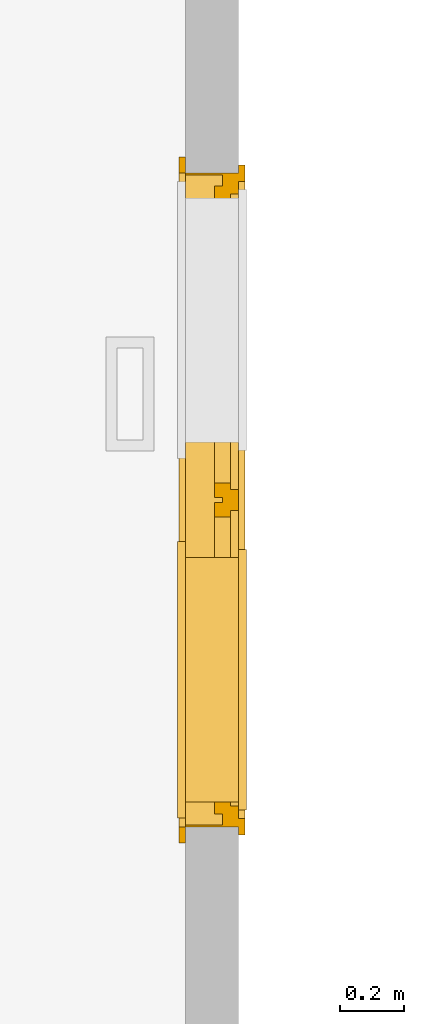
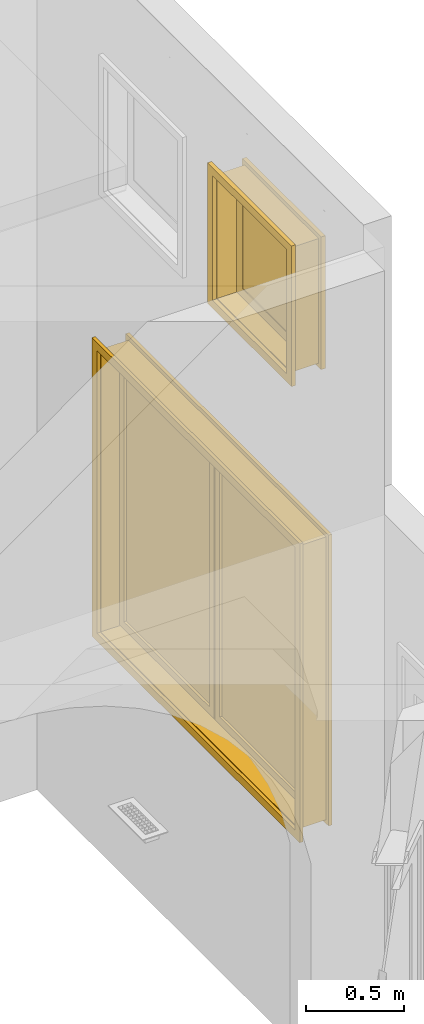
# One storey, part 42 of 77: 2 windows.
"""IFC2X3 building model written with IfcOpenShell, lengths in inches."""

from ifc_helpers import new_model, entity, si_unit, converted_unit, derived_unit, money_unit, direction, frame, origin_with_axes, place, context, subcontext, project, spatial, open_shell, faceted_brep, surface_model, type_object, element, save


model = new_model("IFC2X3")

# Units and contexts
model_context = context("Model", 3, precision=0.000393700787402, world=origin_with_axes(), true_north=direction((0.0, 1.0)))
body_context = subcontext(model_context, "Body", "Model", "MODEL_VIEW")
ifc_project = project(units=[converted_unit("LENGTHUNIT", "INCH", entity("IfcPositiveLengthMeasure", 0.0254), si_unit("LENGTHUNIT", "METRE"), dimensions=[1, 0, 0, 0, 0, 0, 0]), converted_unit("AREAUNIT", "SQUARE_FOOT", entity("IfcPositiveLengthMeasure", 0.09290304), si_unit("AREAUNIT", "SQUARE_METRE"), dimensions=[2, 0, 0, 0, 0, 0, 0]), si_unit("PLANEANGLEUNIT", "RADIAN"), si_unit("SOLIDANGLEUNIT", "STERADIAN"), money_unit("USD"), converted_unit("TIMEUNIT", "Year", entity("IfcTimeMeasure", 31556926.0), si_unit("TIMEUNIT", "SECOND"), dimensions=[0, 0, 1, 0, 0, 0, 0]), si_unit("MASSUNIT", "GRAM", prefix="KILO"), si_unit("THERMODYNAMICTEMPERATUREUNIT", "DEGREE_CELSIUS"), si_unit("LUMINOUSINTENSITYUNIT", "LUMEN"), si_unit("ENERGYUNIT", "JOULE", prefix="MEGA"), derived_unit("THERMALCONDUCTANCEUNIT", [(si_unit("POWERUNIT", "WATT"), 1), (si_unit("LENGTHUNIT", "METRE"), -1), (si_unit("THERMODYNAMICTEMPERATUREUNIT", "KELVIN"), -1)]), derived_unit("SPECIFICHEATCAPACITYUNIT", [(si_unit("ENERGYUNIT", "JOULE"), 1), (si_unit("MASSUNIT", "GRAM", prefix="KILO"), -1), (si_unit("THERMODYNAMICTEMPERATUREUNIT", "KELVIN"), -1)]), derived_unit("MASSDENSITYUNIT", [(si_unit("MASSUNIT", "GRAM", prefix="KILO"), 1), (si_unit("VOLUMEUNIT", "CUBIC_METRE"), -1)])], contexts=[model_context])

# Site, building, storey
site_placement = place(None, origin_with_axes())
site = spatial("IfcSite", under=ifc_project, at=site_placement, Name="Site", CompositionType="ELEMENT")
building_placement = place(site_placement, origin_with_axes())
building = spatial("IfcBuilding", under=site, at=building_placement, Name="Building", CompositionType="ELEMENT")
storey_placement = place(building_placement, frame((0.0, 0.0, 127.952755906), z_axis=(0.0, 0.0, 1.0), x_axis=(1.0, 0.0, 0.0)))
storey = spatial("IfcBuildingStorey", under=building, at=storey_placement, Name="Second Floor", CompositionType="ELEMENT", Elevation=127.953)

# Windows
window_style_1 = type_object("IfcWindowStyle", Name="Double Window 25", ConstructionType="NOTDEFINED", OperationType="DOUBLE_PANEL_VERTICAL", ParameterTakesPrecedence=False, Sizeable=False)
window_1_placement = place(storey_placement, frame((904.219429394, 240.476918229, 27.3622047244), z_axis=(0.0, 0.0, 1.0), x_axis=(4.00995822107e-05, 0.999999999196, 0.0)))
element("IfcWindow", 1, at=window_1_placement, inside=storey, type_object=window_style_1, Name="W-23", OverallHeight=69.685, OverallWidth=79.9213, context=body_context, shape_type="SurfaceModel", body=[
    faceted_brep([(79.9212598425, -4.53149606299, 0.0), (0.0, -4.53149606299, 0.0), (0.0, 0.0, 0.0), (79.9212598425, 0.0, 0.0), (79.9212598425, -4.53149606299, 69.6850393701), (0.0, -4.53149606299, 69.6850393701), (79.7244094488, -4.53149606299, 0.196850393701), (0.196850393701, -4.53149606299, 0.196850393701), (0.196850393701, -4.53149606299, 69.4881889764), (79.7244094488, -4.53149606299, 69.4881889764), (0.0, 0.0, 69.6850393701), (79.9212598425, 0.0, 69.6850393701), (79.7244094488, 0.0, 0.196850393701), (79.7244094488, 0.0, 69.4881889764), (0.196850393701, 0.0, 69.4881889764), (0.196850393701, 0.0, 0.196850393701)], [[[0, 1, 2, 3]], [[0, 4, 5, 1], [6, 7, 8, 9]], [[1, 5, 10, 2]], [[3, 2, 10, 11], [12, 13, 14, 15]], [[4, 0, 3, 11]], [[5, 4, 11, 10]], [[7, 6, 12, 15]], [[8, 7, 15, 14]], [[9, 8, 14, 13]], [[6, 9, 13, 12]]]),
    faceted_brep([(81.8897637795, 0.787401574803, -1.96850393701), (81.8897637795, 0.0, -1.96850393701), (79.9212598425, 0.0, 0.0), (79.9212598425, 0.787401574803, 0.0), (81.8897637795, 0.787401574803, 71.6535433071), (81.8897637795, 0.0, 71.6535433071), (79.9212598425, 0.0, 69.6850393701), (79.9212598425, 0.787401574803, 69.6850393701)], [[[0, 1, 2, 3]], [[4, 5, 1, 0]], [[1, 5, 6, 2]], [[3, 2, 6, 7]], [[0, 3, 7, 4]], [[7, 6, 5, 4]]]),
    faceted_brep([(-1.96850393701, 0.787401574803, 71.6535433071), (-1.96850393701, 0.0, 71.6535433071), (0.0, 0.0, 69.6850393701), (0.0, 0.787401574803, 69.6850393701), (-1.96850393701, 0.787401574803, -1.96850393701), (-1.96850393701, 0.0, -1.96850393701), (0.0, 0.0, 0.0), (0.0, 0.787401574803, 0.0)], [[[0, 1, 2, 3]], [[4, 5, 1, 0]], [[1, 5, 6, 2]], [[3, 2, 6, 7]], [[0, 3, 7, 4]], [[7, 6, 5, 4]]]),
    faceted_brep([(-1.96850393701, 0.787401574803, -1.96850393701), (-1.96850393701, 0.0, -1.96850393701), (0.0, 0.0, 0.0), (0.0, 0.787401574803, 0.0), (81.8897637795, 0.787401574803, -1.96850393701), (81.8897637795, 0.0, -1.96850393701), (79.9212598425, 0.0, 0.0), (79.9212598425, 0.787401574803, 0.0)], [[[0, 1, 2, 3]], [[4, 5, 1, 0]], [[1, 5, 6, 2]], [[3, 2, 6, 7]], [[0, 3, 7, 4]], [[7, 6, 5, 4]]]),
    faceted_brep([(81.8897637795, 0.787401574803, 71.6535433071), (81.8897637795, 0.0, 71.6535433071), (79.9212598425, 0.0, 69.6850393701), (79.9212598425, 0.787401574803, 69.6850393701), (-1.96850393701, 0.787401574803, 71.6535433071), (-1.96850393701, 0.0, 71.6535433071), (0.0, 0.0, 69.6850393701), (0.0, 0.787401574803, 69.6850393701)], [[[0, 1, 2, 3]], [[4, 5, 1, 0]], [[1, 5, 6, 2]], [[3, 2, 6, 7]], [[0, 3, 7, 4]], [[7, 6, 5, 4]]]),
    faceted_brep([(80.905511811, -7.2874015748, -0.984251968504), (78.937007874, -7.2874015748, 0.984251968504), (78.937007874, -6.5, 0.984251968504), (80.905511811, -6.5, -0.984251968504), (80.905511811, -7.2874015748, 70.6692913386), (78.937007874, -7.2874015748, 68.7007874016), (78.937007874, -6.5, 68.7007874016), (80.905511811, -6.5, 70.6692913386)], [[[0, 1, 2, 3]], [[0, 4, 5, 1]], [[1, 5, 6, 2]], [[3, 2, 6, 7]], [[4, 0, 3, 7]], [[5, 4, 7, 6]]]),
    faceted_brep([(-0.984251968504, -7.2874015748, 70.6692913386), (0.984251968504, -7.2874015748, 68.7007874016), (0.984251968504, -6.5, 68.7007874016), (-0.984251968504, -6.5, 70.6692913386), (-0.984251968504, -7.2874015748, -0.984251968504), (0.984251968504, -7.2874015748, 0.984251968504), (0.984251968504, -6.5, 0.984251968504), (-0.984251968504, -6.5, -0.984251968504)], [[[0, 1, 2, 3]], [[0, 4, 5, 1]], [[1, 5, 6, 2]], [[3, 2, 6, 7]], [[4, 0, 3, 7]], [[5, 4, 7, 6]]]),
    faceted_brep([(-0.984251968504, -7.2874015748, -0.984251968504), (0.984251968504, -7.2874015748, 0.984251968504), (0.984251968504, -6.5, 0.984251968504), (-0.984251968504, -6.5, -0.984251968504), (80.905511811, -7.2874015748, -0.984251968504), (78.937007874, -7.2874015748, 0.984251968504), (78.937007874, -6.5, 0.984251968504), (80.905511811, -6.5, -0.984251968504)], [[[0, 1, 2, 3]], [[0, 4, 5, 1]], [[1, 5, 6, 2]], [[3, 2, 6, 7]], [[4, 0, 3, 7]], [[5, 4, 7, 6]]]),
    faceted_brep([(80.905511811, -7.2874015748, 70.6692913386), (78.937007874, -7.2874015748, 68.7007874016), (78.937007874, -6.5, 68.7007874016), (80.905511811, -6.5, 70.6692913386), (-0.984251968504, -7.2874015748, 70.6692913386), (0.984251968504, -7.2874015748, 68.7007874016), (0.984251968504, -6.5, 68.7007874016), (-0.984251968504, -6.5, 70.6692913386)], [[[0, 1, 2, 3]], [[0, 4, 5, 1]], [[1, 5, 6, 2]], [[3, 2, 6, 7]], [[4, 0, 3, 7]], [[5, 4, 7, 6]]]),
    faceted_brep([(78.3464566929, -4.53149606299, 67.125984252), (78.3464566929, -5.5157480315, 67.125984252), (77.3622047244, -5.5157480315, 67.125984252), (77.3622047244, -6.5, 67.125984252), (79.9212598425, -6.5, 67.125984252), (79.9212598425, -4.53149606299, 67.125984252), (78.3464566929, -4.53149606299, 2.55905511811), (78.3464566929, -5.5157480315, 2.55905511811), (77.3622047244, -5.5157480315, 2.55905511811), (77.3622047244, -6.5, 2.55905511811), (79.9212598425, -6.5, 2.55905511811), (79.9212598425, -4.53149606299, 2.55905511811)], [[[0, 1, 2, 3, 4, 5]], [[1, 0, 6, 7]], [[8, 2, 1, 7]], [[2, 8, 9, 3]], [[4, 3, 9, 10]], [[5, 4, 10, 11]], [[6, 0, 5, 11]], [[7, 6, 11, 10, 9, 8]]]),
    faceted_brep([(2.55905511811, -5.5157480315, 67.125984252), (1.57480314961, -5.5157480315, 67.125984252), (1.57480314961, -4.53149606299, 67.125984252), (0.0, -4.53149606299, 67.125984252), (0.0, -6.5, 67.125984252), (2.55905511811, -6.5, 67.125984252), (2.55905511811, -5.5157480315, 2.55905511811), (1.57480314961, -5.5157480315, 2.55905511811), (1.57480314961, -4.53149606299, 2.55905511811), (0.0, -4.53149606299, 2.55905511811), (0.0, -6.5, 2.55905511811), (2.55905511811, -6.5, 2.55905511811)], [[[0, 1, 2, 3, 4, 5]], [[1, 0, 6, 7]], [[8, 2, 1, 7]], [[2, 8, 9, 3]], [[9, 10, 4, 3]], [[10, 11, 5, 4]], [[6, 0, 5, 11]], [[7, 6, 11, 10, 9, 8]]]),
    faceted_brep([(41.2401574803, -5.5157480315, 67.125984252), (40.2559055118, -5.5157480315, 67.125984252), (40.2559055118, -4.53149606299, 67.125984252), (39.6653543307, -4.53149606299, 67.125984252), (39.6653543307, -5.5157480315, 67.125984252), (38.6811023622, -5.5157480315, 67.125984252), (38.6811023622, -6.5, 67.125984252), (41.2401574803, -6.5, 67.125984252), (41.2401574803, -5.5157480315, 2.55905511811), (40.2559055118, -5.5157480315, 2.55905511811), (40.2559055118, -4.53149606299, 2.55905511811), (39.6653543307, -4.53149606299, 2.55905511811), (39.6653543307, -5.5157480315, 2.55905511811), (38.6811023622, -5.5157480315, 2.55905511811), (38.6811023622, -6.5, 2.55905511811), (41.2401574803, -6.5, 2.55905511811)], [[[0, 1, 2, 3, 4, 5, 6, 7]], [[1, 0, 8, 9]], [[10, 2, 1, 9]], [[2, 10, 11, 3]], [[4, 3, 11, 12]], [[13, 5, 4, 12]], [[5, 13, 14, 6]], [[14, 15, 7, 6]], [[8, 0, 7, 15]], [[9, 8, 15, 14, 13, 12, 11, 10]]]),
    faceted_brep([(41.2401574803, -5.5157480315, 2.55905511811), (40.2559055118, -5.5157480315, 2.55905511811), (40.2559055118, -4.53149606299, 2.55905511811), (39.6653543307, -4.53149606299, 2.55905511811), (39.6653543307, -5.5157480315, 2.55905511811), (38.6811023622, -5.5157480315, 2.55905511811), (38.6811023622, -6.5, 2.55905511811), (41.2401574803, -6.5, 2.55905511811), (77.3622047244, -5.5157480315, 2.55905511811), (78.3464566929, -5.5157480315, 2.55905511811), (78.3464566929, -5.5157480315, 1.57480314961), (40.2559055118, -5.5157480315, 1.57480314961), (40.2559055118, -4.53149606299, 1.57480314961), (78.3464566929, -4.53149606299, 1.57480314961), (78.3464566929, -4.53149606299, 2.55905511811), (79.9212598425, -4.53149606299, 2.55905511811), (79.9212598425, -4.53149606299, 0.0), (0.0, -4.53149606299, 0.0), (0.0, -4.53149606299, 2.55905511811), (1.57480314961, -4.53149606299, 2.55905511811), (1.57480314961, -4.53149606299, 1.57480314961), (39.6653543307, -4.53149606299, 1.57480314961), (39.6653543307, -5.5157480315, 1.57480314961), (1.57480314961, -5.5157480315, 2.55905511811), (2.55905511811, -5.5157480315, 2.55905511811), (1.57480314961, -5.5157480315, 1.57480314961), (2.55905511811, -6.5, 2.55905511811), (79.9212598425, -6.5, 2.55905511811), (77.3622047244, -6.5, 2.55905511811), (0.0, -6.5, 2.55905511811), (0.0, -6.5, 0.0), (79.9212598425, -6.5, 0.0)], [[[0, 1, 2, 3, 4, 5, 6, 7]], [[1, 0, 8, 9, 10, 11]], [[12, 2, 1, 11]], [[13, 14, 15, 16, 17, 18, 19, 20, 21, 3, 2, 12]], [[4, 3, 21, 22]], [[23, 24, 5, 4, 22, 25]], [[5, 24, 26, 6]], [[27, 28, 7, 6, 26, 29, 30, 31]], [[8, 0, 7, 28]], [[9, 8, 28, 27, 15, 14]], [[9, 14, 13, 10]], [[13, 12, 11, 10]], [[15, 27, 31, 16]], [[16, 31, 30, 17]], [[17, 30, 29, 18]], [[24, 23, 19, 18, 29, 26]], [[20, 19, 23, 25]], [[21, 20, 25, 22]]]),
    faceted_brep([(78.3464566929, -4.53149606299, 67.125984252), (78.3464566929, -4.53149606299, 68.1102362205), (40.2559055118, -4.53149606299, 68.1102362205), (40.2559055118, -4.53149606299, 67.125984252), (39.6653543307, -4.53149606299, 67.125984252), (39.6653543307, -4.53149606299, 68.1102362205), (1.57480314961, -4.53149606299, 68.1102362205), (1.57480314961, -4.53149606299, 67.125984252), (0.0, -4.53149606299, 67.125984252), (0.0, -4.53149606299, 69.6850393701), (79.9212598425, -4.53149606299, 69.6850393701), (79.9212598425, -4.53149606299, 67.125984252), (78.3464566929, -5.5157480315, 67.125984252), (78.3464566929, -5.5157480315, 68.1102362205), (40.2559055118, -5.5157480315, 68.1102362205), (40.2559055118, -5.5157480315, 67.125984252), (41.2401574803, -5.5157480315, 67.125984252), (41.2401574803, -6.5, 67.125984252), (38.6811023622, -6.5, 67.125984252), (38.6811023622, -5.5157480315, 67.125984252), (39.6653543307, -5.5157480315, 67.125984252), (39.6653543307, -5.5157480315, 68.1102362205), (1.57480314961, -5.5157480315, 68.1102362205), (1.57480314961, -5.5157480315, 67.125984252), (2.55905511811, -5.5157480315, 67.125984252), (2.55905511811, -6.5, 67.125984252), (0.0, -6.5, 67.125984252), (0.0, -6.5, 69.6850393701), (79.9212598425, -6.5, 69.6850393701), (79.9212598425, -6.5, 67.125984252), (77.3622047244, -6.5, 67.125984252), (77.3622047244, -5.5157480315, 67.125984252)], [[[0, 1, 2, 3, 4, 5, 6, 7, 8, 9, 10, 11]], [[1, 0, 12, 13]], [[2, 1, 13, 14]], [[3, 2, 14, 15]], [[15, 16, 17, 18, 19, 20, 4, 3]], [[5, 4, 20, 21]], [[6, 5, 21, 22]], [[7, 6, 22, 23]], [[23, 24, 25, 26, 8, 7]], [[8, 26, 27, 9]], [[9, 27, 28, 10]], [[10, 28, 29, 11]], [[12, 0, 11, 29, 30, 31]], [[16, 15, 14, 13, 12, 31]], [[16, 31, 30, 17]], [[18, 17, 30, 29, 28, 27, 26, 25]], [[24, 19, 18, 25]], [[24, 23, 22, 21, 20, 19]]]),
    faceted_brep([(76.5748031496, -5.5157480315, 66.3385826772), (78.3464566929, -5.5157480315, 66.3385826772), (78.3464566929, -3.54724409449, 66.3385826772), (76.5748031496, -3.54724409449, 66.3385826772), (76.5748031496, -5.5157480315, 3.34645669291), (78.3464566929, -5.5157480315, 3.34645669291), (78.3464566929, -3.54724409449, 3.34645669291), (76.5748031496, -3.54724409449, 3.34645669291)], [[[0, 1, 2, 3]], [[0, 4, 5, 1]], [[1, 5, 6, 2]], [[3, 2, 6, 7]], [[4, 0, 3, 7]], [[5, 4, 7, 6]]]),
    faceted_brep([(42.0275590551, -5.5157480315, 3.34645669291), (40.2559055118, -5.5157480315, 3.34645669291), (40.2559055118, -3.54724409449, 3.34645669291), (42.0275590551, -3.54724409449, 3.34645669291), (42.0275590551, -5.5157480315, 66.3385826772), (40.2559055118, -5.5157480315, 66.3385826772), (40.2559055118, -3.54724409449, 66.3385826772), (42.0275590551, -3.54724409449, 66.3385826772)], [[[0, 1, 2, 3]], [[0, 4, 5, 1]], [[1, 5, 6, 2]], [[3, 2, 6, 7]], [[4, 0, 3, 7]], [[5, 4, 7, 6]]]),
    faceted_brep([(40.2559055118, -5.5157480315, 1.57480314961), (40.2559055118, -5.5157480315, 3.34645669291), (40.2559055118, -3.54724409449, 3.34645669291), (40.2559055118, -3.54724409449, 1.57480314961), (78.3464566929, -5.5157480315, 1.57480314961), (78.3464566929, -5.5157480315, 3.34645669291), (76.5748031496, -5.5157480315, 3.34645669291), (42.0275590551, -5.5157480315, 3.34645669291), (42.0275590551, -3.54724409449, 3.34645669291), (76.5748031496, -3.54724409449, 3.34645669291), (78.3464566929, -3.54724409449, 3.34645669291), (78.3464566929, -3.54724409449, 1.57480314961)], [[[0, 1, 2, 3]], [[0, 4, 5, 6, 7, 1]], [[1, 7, 8, 2]], [[3, 2, 8, 9, 10, 11]], [[4, 0, 3, 11]], [[5, 4, 11, 10]], [[6, 5, 10, 9]], [[7, 6, 9, 8]]]),
    faceted_brep([(78.3464566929, -5.5157480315, 68.1102362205), (78.3464566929, -5.5157480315, 66.3385826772), (78.3464566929, -3.54724409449, 66.3385826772), (78.3464566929, -3.54724409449, 68.1102362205), (40.2559055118, -5.5157480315, 68.1102362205), (40.2559055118, -5.5157480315, 66.3385826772), (42.0275590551, -5.5157480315, 66.3385826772), (76.5748031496, -5.5157480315, 66.3385826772), (76.5748031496, -3.54724409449, 66.3385826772), (42.0275590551, -3.54724409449, 66.3385826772), (40.2559055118, -3.54724409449, 66.3385826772), (40.2559055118, -3.54724409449, 68.1102362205)], [[[0, 1, 2, 3]], [[0, 4, 5, 6, 7, 1]], [[1, 7, 8, 2]], [[3, 2, 8, 9, 10, 11]], [[4, 0, 3, 11]], [[5, 4, 11, 10]], [[6, 5, 10, 9]], [[7, 6, 9, 8]]]),
    surface_model("IfcShellBasedSurfaceModel", [(76.5748031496, -4.92519685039, 3.34645669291), (76.5748031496, -4.92519685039, 66.3385826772), (42.0275590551, -4.92519685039, 66.3385826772), (42.0275590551, -4.92519685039, 3.34645669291)], [open_shell([[[0, 1, 2, 3]]])]),
    surface_model("IfcShellBasedSurfaceModel", [(76.5748031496, -4.13779527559, 3.34645669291), (42.0275590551, -4.13779527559, 3.34645669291), (42.0275590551, -4.13779527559, 66.3385826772), (76.5748031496, -4.13779527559, 66.3385826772)], [open_shell([[[0, 1, 2, 3]]])]),
    faceted_brep([(37.8937007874, -5.5157480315, 66.3385826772), (39.6653543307, -5.5157480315, 66.3385826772), (39.6653543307, -3.54724409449, 66.3385826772), (37.8937007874, -3.54724409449, 66.3385826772), (37.8937007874, -5.5157480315, 3.34645669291), (39.6653543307, -5.5157480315, 3.34645669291), (39.6653543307, -3.54724409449, 3.34645669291), (37.8937007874, -3.54724409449, 3.34645669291)], [[[0, 1, 2, 3]], [[0, 4, 5, 1]], [[1, 5, 6, 2]], [[3, 2, 6, 7]], [[4, 0, 3, 7]], [[5, 4, 7, 6]]]),
    faceted_brep([(3.34645669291, -5.5157480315, 3.34645669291), (1.57480314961, -5.5157480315, 3.34645669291), (1.57480314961, -3.54724409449, 3.34645669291), (3.34645669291, -3.54724409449, 3.34645669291), (3.34645669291, -5.5157480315, 66.3385826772), (1.57480314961, -5.5157480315, 66.3385826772), (1.57480314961, -3.54724409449, 66.3385826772), (3.34645669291, -3.54724409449, 66.3385826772)], [[[0, 1, 2, 3]], [[0, 4, 5, 1]], [[1, 5, 6, 2]], [[3, 2, 6, 7]], [[4, 0, 3, 7]], [[5, 4, 7, 6]]]),
    faceted_brep([(1.57480314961, -5.5157480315, 1.57480314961), (1.57480314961, -5.5157480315, 3.34645669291), (1.57480314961, -3.54724409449, 3.34645669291), (1.57480314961, -3.54724409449, 1.57480314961), (39.6653543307, -5.5157480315, 1.57480314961), (39.6653543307, -5.5157480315, 3.34645669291), (37.8937007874, -5.5157480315, 3.34645669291), (3.34645669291, -5.5157480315, 3.34645669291), (3.34645669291, -3.54724409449, 3.34645669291), (37.8937007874, -3.54724409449, 3.34645669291), (39.6653543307, -3.54724409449, 3.34645669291), (39.6653543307, -3.54724409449, 1.57480314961)], [[[0, 1, 2, 3]], [[0, 4, 5, 6, 7, 1]], [[1, 7, 8, 2]], [[3, 2, 8, 9, 10, 11]], [[4, 0, 3, 11]], [[5, 4, 11, 10]], [[6, 5, 10, 9]], [[7, 6, 9, 8]]]),
    faceted_brep([(39.6653543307, -5.5157480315, 68.1102362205), (39.6653543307, -5.5157480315, 66.3385826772), (39.6653543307, -3.54724409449, 66.3385826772), (39.6653543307, -3.54724409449, 68.1102362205), (1.57480314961, -5.5157480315, 68.1102362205), (1.57480314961, -5.5157480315, 66.3385826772), (3.34645669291, -5.5157480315, 66.3385826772), (37.8937007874, -5.5157480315, 66.3385826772), (37.8937007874, -3.54724409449, 66.3385826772), (3.34645669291, -3.54724409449, 66.3385826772), (1.57480314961, -3.54724409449, 66.3385826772), (1.57480314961, -3.54724409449, 68.1102362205)], [[[0, 1, 2, 3]], [[0, 4, 5, 6, 7, 1]], [[1, 7, 8, 2]], [[3, 2, 8, 9, 10, 11]], [[4, 0, 3, 11]], [[5, 4, 11, 10]], [[6, 5, 10, 9]], [[7, 6, 9, 8]]]),
    surface_model("IfcShellBasedSurfaceModel", [(37.8937007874, -4.92519685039, 3.34645669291), (37.8937007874, -4.92519685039, 66.3385826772), (3.34645669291, -4.92519685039, 66.3385826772), (3.34645669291, -4.92519685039, 3.34645669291)], [open_shell([[[0, 1, 2, 3]]])]),
    surface_model("IfcShellBasedSurfaceModel", [(37.8937007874, -4.13779527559, 3.34645669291), (3.34645669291, -4.13779527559, 3.34645669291), (3.34645669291, -4.13779527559, 66.3385826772), (37.8937007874, -4.13779527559, 66.3385826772)], [open_shell([[[0, 1, 2, 3]]])]),
])
window_style_2 = type_object("IfcWindowStyle", Name="Window 25", ConstructionType="NOTDEFINED", OperationType="SINGLE_PANEL", ParameterTakesPrecedence=False, Sizeable=False)
window_2_placement = place(storey_placement, frame((904.220749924, 273.408194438, 137.992125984), z_axis=(0.0, 0.0, 1.0), x_axis=(-4.00995822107e-05, -0.999999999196, 0.0)))
element("IfcWindow", 2, at=window_2_placement, inside=storey, type_object=window_style_2, Name="W-40", OverallHeight=30.7087, OverallWidth=29.9213, context=body_context, shape_type="SurfaceModel", body=[
    faceted_brep([(0.0, 4.53149606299, 0.0), (29.9212598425, 4.53149606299, 0.0), (29.9212598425, 0.0, 0.0), (0.0, 0.0, 0.0), (0.0, 4.53149606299, 30.7086614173), (29.9212598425, 4.53149606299, 30.7086614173), (0.196850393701, 4.53149606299, 0.196850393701), (29.7244094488, 4.53149606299, 0.196850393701), (29.7244094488, 4.53149606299, 30.5118110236), (0.196850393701, 4.53149606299, 30.5118110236), (29.9212598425, 0.0, 30.7086614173), (0.0, 0.0, 30.7086614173), (0.196850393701, 0.0, 0.196850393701), (0.196850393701, 0.0, 30.5118110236), (29.7244094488, 0.0, 30.5118110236), (29.7244094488, 0.0, 0.196850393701)], [[[0, 1, 2, 3]], [[0, 4, 5, 1], [6, 7, 8, 9]], [[1, 5, 10, 2]], [[3, 2, 10, 11], [12, 13, 14, 15]], [[4, 0, 3, 11]], [[5, 4, 11, 10]], [[7, 6, 12, 15]], [[8, 7, 15, 14]], [[9, 8, 14, 13]], [[6, 9, 13, 12]]]),
    faceted_brep([(-1.96850393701, -0.984251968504, -1.96850393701), (-1.96850393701, 0.0, -1.96850393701), (0.0, 0.0, 0.0), (0.0, -0.984251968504, 0.0), (-1.96850393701, -0.984251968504, 32.6771653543), (-1.96850393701, 0.0, 32.6771653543), (0.0, 0.0, 30.7086614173), (0.0, -0.984251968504, 30.7086614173)], [[[0, 1, 2, 3]], [[4, 5, 1, 0]], [[1, 5, 6, 2]], [[3, 2, 6, 7]], [[0, 3, 7, 4]], [[7, 6, 5, 4]]]),
    faceted_brep([(31.8897637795, -0.984251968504, 32.6771653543), (31.8897637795, 0.0, 32.6771653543), (29.9212598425, 0.0, 30.7086614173), (29.9212598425, -0.984251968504, 30.7086614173), (31.8897637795, -0.984251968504, -1.96850393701), (31.8897637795, 0.0, -1.96850393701), (29.9212598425, 0.0, 0.0), (29.9212598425, -0.984251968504, 0.0)], [[[0, 1, 2, 3]], [[4, 5, 1, 0]], [[1, 5, 6, 2]], [[3, 2, 6, 7]], [[0, 3, 7, 4]], [[7, 6, 5, 4]]]),
    faceted_brep([(31.8897637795, -0.984251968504, -1.96850393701), (31.8897637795, 0.0, -1.96850393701), (29.9212598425, 0.0, 0.0), (29.9212598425, -0.984251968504, 0.0), (-1.96850393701, -0.984251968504, -1.96850393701), (-1.96850393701, 0.0, -1.96850393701), (0.0, 0.0, 0.0), (0.0, -0.984251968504, 0.0)], [[[0, 1, 2, 3]], [[4, 5, 1, 0]], [[1, 5, 6, 2]], [[3, 2, 6, 7]], [[0, 3, 7, 4]], [[7, 6, 5, 4]]]),
    faceted_brep([(-1.96850393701, -0.984251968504, 32.6771653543), (-1.96850393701, 0.0, 32.6771653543), (0.0, 0.0, 30.7086614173), (0.0, -0.984251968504, 30.7086614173), (31.8897637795, -0.984251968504, 32.6771653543), (31.8897637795, 0.0, 32.6771653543), (29.9212598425, 0.0, 30.7086614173), (29.9212598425, -0.984251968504, 30.7086614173)], [[[0, 1, 2, 3]], [[4, 5, 1, 0]], [[1, 5, 6, 2]], [[3, 2, 6, 7]], [[0, 3, 7, 4]], [[7, 6, 5, 4]]]),
    faceted_brep([(-0.984251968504, 7.4842519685, -0.984251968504), (0.984251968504, 7.4842519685, 0.984251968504), (0.984251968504, 6.5, 0.984251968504), (-0.984251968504, 6.5, -0.984251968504), (-0.984251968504, 7.4842519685, 31.6929133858), (0.984251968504, 7.4842519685, 29.7244094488), (0.984251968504, 6.5, 29.7244094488), (-0.984251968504, 6.5, 31.6929133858)], [[[0, 1, 2, 3]], [[0, 4, 5, 1]], [[1, 5, 6, 2]], [[3, 2, 6, 7]], [[4, 0, 3, 7]], [[5, 4, 7, 6]]]),
    faceted_brep([(30.905511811, 7.4842519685, 31.6929133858), (28.937007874, 7.4842519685, 29.7244094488), (28.937007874, 6.5, 29.7244094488), (30.905511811, 6.5, 31.6929133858), (30.905511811, 7.4842519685, -0.984251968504), (28.937007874, 7.4842519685, 0.984251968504), (28.937007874, 6.5, 0.984251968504), (30.905511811, 6.5, -0.984251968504)], [[[0, 1, 2, 3]], [[0, 4, 5, 1]], [[1, 5, 6, 2]], [[3, 2, 6, 7]], [[4, 0, 3, 7]], [[5, 4, 7, 6]]]),
    faceted_brep([(30.905511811, 7.4842519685, -0.984251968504), (28.937007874, 7.4842519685, 0.984251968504), (28.937007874, 6.5, 0.984251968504), (30.905511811, 6.5, -0.984251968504), (-0.984251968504, 7.4842519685, -0.984251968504), (0.984251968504, 7.4842519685, 0.984251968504), (0.984251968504, 6.5, 0.984251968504), (-0.984251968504, 6.5, -0.984251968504)], [[[0, 1, 2, 3]], [[0, 4, 5, 1]], [[1, 5, 6, 2]], [[3, 2, 6, 7]], [[4, 0, 3, 7]], [[5, 4, 7, 6]]]),
    faceted_brep([(-0.984251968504, 7.4842519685, 31.6929133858), (0.984251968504, 7.4842519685, 29.7244094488), (0.984251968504, 6.5, 29.7244094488), (-0.984251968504, 6.5, 31.6929133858), (30.905511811, 7.4842519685, 31.6929133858), (28.937007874, 7.4842519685, 29.7244094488), (28.937007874, 6.5, 29.7244094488), (30.905511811, 6.5, 31.6929133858)], [[[0, 1, 2, 3]], [[0, 4, 5, 1]], [[1, 5, 6, 2]], [[3, 2, 6, 7]], [[4, 0, 3, 7]], [[5, 4, 7, 6]]]),
    faceted_brep([(1.49606299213, 6.5, 28.2283464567), (0.0, 6.5, 28.2283464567), (0.0, 4.53149606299, 28.2283464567), (2.48031496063, 4.53149606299, 28.2283464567), (2.48031496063, 4.72834645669, 28.2283464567), (1.49606299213, 4.72834645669, 28.2283464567), (1.49606299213, 6.5, 2.48031496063), (0.0, 6.5, 2.48031496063), (0.0, 4.53149606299, 2.48031496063), (2.48031496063, 4.53149606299, 2.48031496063), (2.48031496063, 4.72834645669, 2.48031496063), (1.49606299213, 4.72834645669, 2.48031496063)], [[[0, 1, 2, 3, 4, 5]], [[6, 7, 1, 0]], [[1, 7, 8, 2]], [[2, 8, 9, 3]], [[4, 3, 9, 10]], [[10, 11, 5, 4]], [[5, 11, 6, 0]], [[11, 10, 9, 8, 7, 6]]]),
    faceted_brep([(27.4409448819, 4.72834645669, 28.2283464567), (27.4409448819, 4.53149606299, 28.2283464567), (29.9212598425, 4.53149606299, 28.2283464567), (29.9212598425, 6.5, 28.2283464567), (28.4251968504, 6.5, 28.2283464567), (28.4251968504, 4.72834645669, 28.2283464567), (27.4409448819, 4.72834645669, 2.48031496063), (27.4409448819, 4.53149606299, 2.48031496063), (29.9212598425, 4.53149606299, 2.48031496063), (29.9212598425, 6.5, 2.48031496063), (28.4251968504, 6.5, 2.48031496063), (28.4251968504, 4.72834645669, 2.48031496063)], [[[0, 1, 2, 3, 4, 5]], [[6, 7, 1, 0]], [[8, 2, 1, 7]], [[9, 3, 2, 8]], [[4, 3, 9, 10]], [[10, 11, 5, 4]], [[5, 11, 6, 0]], [[11, 10, 9, 8, 7, 6]]]),
    faceted_brep([(27.4409448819, 4.72834645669, 2.48031496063), (27.4409448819, 4.53149606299, 2.48031496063), (29.9212598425, 4.53149606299, 2.48031496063), (29.9212598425, 6.5, 2.48031496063), (28.4251968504, 6.5, 2.48031496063), (28.4251968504, 4.72834645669, 2.48031496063), (2.48031496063, 4.72834645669, 2.48031496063), (2.48031496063, 4.53149606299, 2.48031496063), (0.0, 4.53149606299, 2.48031496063), (0.0, 4.53149606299, 0.0), (29.9212598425, 4.53149606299, 0.0), (29.9212598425, 6.5, 0.0), (1.49606299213, 6.5, 1.49606299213), (28.4251968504, 6.5, 1.49606299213), (0.0, 6.5, 0.0), (0.0, 6.5, 2.48031496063), (1.49606299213, 6.5, 2.48031496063), (28.4251968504, 4.72834645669, 1.49606299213), (1.49606299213, 4.72834645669, 1.49606299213), (1.49606299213, 4.72834645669, 2.48031496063)], [[[0, 1, 2, 3, 4, 5]], [[6, 7, 1, 0]], [[8, 9, 10, 2, 1, 7]], [[11, 3, 2, 10]], [[12, 13, 4, 3, 11, 14, 15, 16]], [[13, 17, 5, 4]], [[5, 17, 18, 19, 6, 0]], [[19, 16, 15, 8, 7, 6]], [[15, 14, 9, 8]], [[14, 11, 10, 9]], [[12, 18, 17, 13]], [[19, 18, 12, 16]]]),
    faceted_brep([(1.49606299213, 6.5, 28.2283464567), (0.0, 6.5, 28.2283464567), (0.0, 6.5, 30.7086614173), (29.9212598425, 6.5, 30.7086614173), (29.9212598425, 6.5, 28.2283464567), (28.4251968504, 6.5, 28.2283464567), (28.4251968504, 6.5, 29.2125984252), (1.49606299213, 6.5, 29.2125984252), (1.49606299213, 4.72834645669, 28.2283464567), (2.48031496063, 4.72834645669, 28.2283464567), (2.48031496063, 4.53149606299, 28.2283464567), (0.0, 4.53149606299, 28.2283464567), (0.0, 4.53149606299, 30.7086614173), (29.9212598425, 4.53149606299, 30.7086614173), (29.9212598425, 4.53149606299, 28.2283464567), (28.4251968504, 4.72834645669, 28.2283464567), (27.4409448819, 4.53149606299, 28.2283464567), (27.4409448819, 4.72834645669, 28.2283464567), (28.4251968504, 4.72834645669, 29.2125984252), (1.49606299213, 4.72834645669, 29.2125984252)], [[[0, 1, 2, 3, 4, 5, 6, 7]], [[8, 9, 10, 11, 1, 0]], [[2, 1, 11, 12]], [[3, 2, 12, 13]], [[4, 3, 13, 14]], [[15, 5, 4, 14, 16, 17]], [[5, 15, 18, 6]], [[6, 18, 19, 7]], [[7, 19, 8, 0]], [[17, 9, 8, 19, 18, 15]], [[17, 16, 10, 9]], [[14, 13, 12, 11, 10, 16]]]),
    faceted_brep([(1.73228346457, 4.72834645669, 28.9763779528), (1.73228346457, 6.3031496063, 28.9763779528), (1.49606299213, 6.3031496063, 28.9763779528), (1.49606299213, 4.72834645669, 28.9763779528), (1.73228346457, 4.72834645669, 1.73228346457), (1.73228346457, 6.3031496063, 1.73228346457), (1.49606299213, 6.3031496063, 1.73228346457), (1.49606299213, 4.72834645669, 1.73228346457)], [[[0, 1, 2, 3]], [[4, 5, 1, 0]], [[1, 5, 6, 2]], [[3, 2, 6, 7]], [[0, 3, 7, 4]], [[7, 6, 5, 4]]]),
    faceted_brep([(28.188976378, 4.72834645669, 1.73228346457), (28.188976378, 6.3031496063, 1.73228346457), (28.4251968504, 6.3031496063, 1.73228346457), (28.4251968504, 4.72834645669, 1.73228346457), (28.188976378, 4.72834645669, 28.9763779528), (28.188976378, 6.3031496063, 28.9763779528), (28.4251968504, 6.3031496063, 28.9763779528), (28.4251968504, 4.72834645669, 28.9763779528)], [[[0, 1, 2, 3]], [[4, 5, 1, 0]], [[1, 5, 6, 2]], [[3, 2, 6, 7]], [[0, 3, 7, 4]], [[7, 6, 5, 4]]]),
    faceted_brep([(28.4251968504, 4.72834645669, 1.49606299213), (28.4251968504, 6.3031496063, 1.49606299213), (28.4251968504, 6.3031496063, 1.73228346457), (28.4251968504, 4.72834645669, 1.73228346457), (1.49606299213, 4.72834645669, 1.49606299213), (1.49606299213, 6.3031496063, 1.49606299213), (1.49606299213, 6.3031496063, 1.73228346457), (1.73228346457, 6.3031496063, 1.73228346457), (28.188976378, 6.3031496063, 1.73228346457), (28.188976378, 4.72834645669, 1.73228346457), (1.73228346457, 4.72834645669, 1.73228346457), (1.49606299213, 4.72834645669, 1.73228346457)], [[[0, 1, 2, 3]], [[4, 5, 1, 0]], [[1, 5, 6, 7, 8, 2]], [[3, 2, 8, 9]], [[0, 3, 9, 10, 11, 4]], [[11, 6, 5, 4]], [[10, 7, 6, 11]], [[9, 8, 7, 10]]]),
    faceted_brep([(1.49606299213, 4.72834645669, 29.2125984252), (1.49606299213, 6.3031496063, 29.2125984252), (1.49606299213, 6.3031496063, 28.9763779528), (1.49606299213, 4.72834645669, 28.9763779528), (28.4251968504, 4.72834645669, 29.2125984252), (28.4251968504, 6.3031496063, 29.2125984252), (28.4251968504, 6.3031496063, 28.9763779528), (28.188976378, 6.3031496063, 28.9763779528), (1.73228346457, 6.3031496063, 28.9763779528), (1.73228346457, 4.72834645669, 28.9763779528), (28.188976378, 4.72834645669, 28.9763779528), (28.4251968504, 4.72834645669, 28.9763779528)], [[[0, 1, 2, 3]], [[4, 5, 1, 0]], [[1, 5, 6, 7, 8, 2]], [[3, 2, 8, 9]], [[0, 3, 9, 10, 11, 4]], [[11, 6, 5, 4]], [[10, 7, 6, 11]], [[9, 8, 7, 10]]]),
    surface_model("IfcShellBasedSurfaceModel", [(1.73228346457, 5.12204724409, 1.73228346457), (28.188976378, 5.12204724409, 1.73228346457), (28.188976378, 5.12204724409, 28.9763779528), (1.73228346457, 5.12204724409, 28.9763779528)], [open_shell([[[0, 1, 2, 3]]])]),
    surface_model("IfcShellBasedSurfaceModel", [(1.73228346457, 5.9094488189, 1.73228346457), (1.73228346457, 5.9094488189, 28.9763779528), (28.188976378, 5.9094488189, 28.9763779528), (28.188976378, 5.9094488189, 1.73228346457)], [open_shell([[[0, 1, 2, 3]]])]),
])

save(model, "model.ifc")
